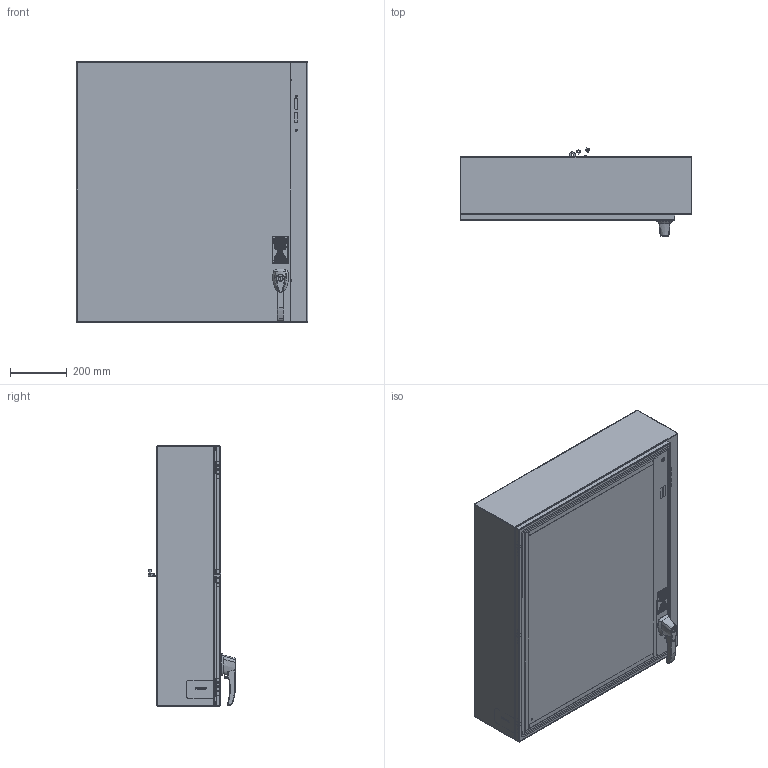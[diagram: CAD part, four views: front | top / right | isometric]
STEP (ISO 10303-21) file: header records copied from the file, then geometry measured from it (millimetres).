
FILE_DESCRIPTION(/* description */ ('Unknown'),/* implementation_level */ '2;1');
FILE_NAME(/* name */ 'EN4DSC36328GY',/* time_stamp */ '2020-05-15T15:44:10-04:00',/* author */ ('Unknown'),/* organization */ ('Unknown'),/* preprocessor_version */ 'ST-DEVELOPER v16.7',/* originating_system */ 'Solid Edge',/* authorisation */ 'Unknown');
FILE_SCHEMA (('AUTOMOTIVE_DESIGN {1 0 10303 214 3 1 1}'));
Products named in the file (50): EN4DSC36328GY; std26098; HNG14573-1; COM55873-1; STD21878; COM55880-6; STD21879; HNG14573-2; COM55943; COM53846; STD26057; PIN17645; KIT90671; BUL10020; NTS165305; NTS16535; NTS166105; NTS18006; BUL10136; SCC181205; WAM30022; COM55872-1; scs189755; WAF250205; COM55891; LOC13320; NTS16699; WAM30029; COM56175; SCS86714; ROL87452; COM55884-4; QLB20254; QLB20284; CAP02342; LAB20180; HAN13060; HAN13060_SCREW; HAN13060_NUT; HAN_NUT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
Assembly tree (71 placements, depth 3):
  EN4DSC36328GY
    std26098  x6
    HNG14573-1  x3
    COM55873-1
    STD21878
    COM55880-6
      STD21879
      HNG14573-2  x3
      STD21878
      COM55880-6
      COM55943  x2
      COM53846  x2
      STD26057  x2
    PIN17645  x3
    KIT90671
      BUL10020
      NTS165305
      NTS16535
      NTS166105
      NTS18006
      BUL10136
      SCC181205
      WAM30022
    COM55872-1
    scs189755  x2
    WAF250205  x2
    COM55891
    LOC13320
    NTS16699
    WAM30029
    COM56175  x2
      SCS86714
      ROL87452
      COM56175
    COM55884-4
    QLB20254
    QLB20284
    CAP02342  x3
    LAB20180
    HAN13060
      HAN13060
      HAN13060_SCREW
      HAN13060_NUT
      HAN_NUT
    SCS86713  x2
    COM70219_oa_0
    COM71097
    PNT11078
    NTS17050  x2
    COM56093
    BUL10324
Bounding box: 812.8 x 308.74 x 914.4 mm (x, y, z)
Volume: 4920157.3 mm3; surface area: 5313605 mm2
Topology: 65 solids, 66 shells, 4209 faces, 10542 edges, 6970 vertices
Faces by surface type: plane 3222, bspline 488, cylinder 379, torus 74, cone 44, sphere 2
Full cylindrical faces by diameter (mm): 3.967 x2, 4.369 x3, 4.394 x2, 4.47 x4, 4.572 x2, 4.775 x2, 4.976 x2, 5.461 x2, 5.74 x3, 5.893 x1, 5.918 x1, 6.096 x3, 6.35 x12, 6.411 x1, 6.502 x1, 6.731 x2, 6.858 x6, 7.137 x4, 7.417 x3, 7.805 x1, 7.938 x8, 8.001 x1, 8.128 x1, 8.255 x1, 8.484 x1, 8.89 x1, 9.144 x2, 9.525 x5, 10.008 x1, 10.109 x9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
Entity records: 139618 total; most frequent: CARTESIAN_POINT 58134, ORIENTED_EDGE 18828, DIRECTION 11840, EDGE_CURVE 9414, VERTEX_POINT 6328, B_SPLINE_CURVE_WITH_KNOTS 4949, FACE_BOUND 4548, EDGE_LOOP 4546
